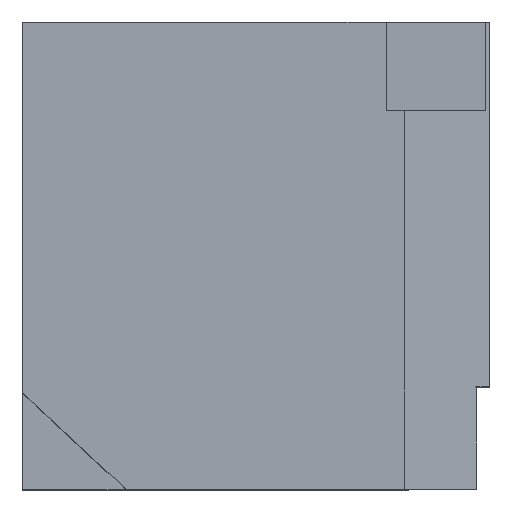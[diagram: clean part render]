
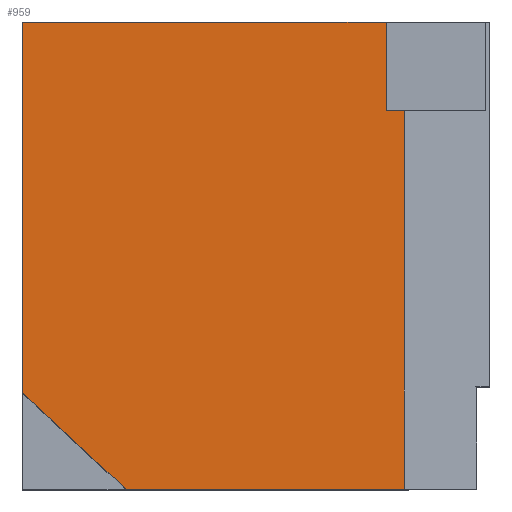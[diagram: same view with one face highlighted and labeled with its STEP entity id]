
A CAD part, top view. The second image highlights one B-rep face of the part: STEP entity #959.
In plain terms, the highlighted planar face has unit normal (0, 0, 1).
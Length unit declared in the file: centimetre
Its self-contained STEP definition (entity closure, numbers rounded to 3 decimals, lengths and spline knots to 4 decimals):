
#7 = DIRECTION ( 'NONE',  ( 0., 0., 1. ) ) ;
#39 = CARTESIAN_POINT ( 'NONE',  ( 0., 1000., 1000. ) ) ;
#50 = EDGE_CURVE ( 'NONE', #1014, #772, #886, .T. ) ;
#71 = ORIENTED_EDGE ( 'NONE', *, *, #313, .F. ) ;
#81 = LINE ( 'NONE', #937, #743 ) ;
#100 = DIRECTION ( 'NONE',  ( 0., 1., 0. ) ) ;
#104 = CARTESIAN_POINT ( 'NONE',  ( 222.0082, 0., 1000. ) ) ;
#122 = CARTESIAN_POINT ( 'NONE',  ( 778.4137, 810.6139, 1000. ) ) ;
#131 = DIRECTION ( 'NONE',  ( -1., 0., 0. ) ) ;
#133 = LINE ( 'NONE', #122, #674 ) ;
#167 = ORIENTED_EDGE ( 'NONE', *, *, #672, .F. ) ;
#176 = DIRECTION ( 'NONE',  ( 1., 0., 0. ) ) ;
#182 = CARTESIAN_POINT ( 'NONE',  ( 817.645, 0., 1000. ) ) ;
#226 = VERTEX_POINT ( 'NONE', #231 ) ;
#231 = CARTESIAN_POINT ( 'NONE',  ( 778.4137, 810.6139, 1000. ) ) ;
#235 = DIRECTION ( 'NONE',  ( 1., 0., 0. ) ) ;
#256 = EDGE_CURVE ( 'NONE', #1103, #335, #490, .T. ) ;
#285 = CARTESIAN_POINT ( 'NONE',  ( 817.645, 1000., 1000. ) ) ;
#289 = VECTOR ( 'NONE', #816, 100. ) ;
#295 = DIRECTION ( 'NONE',  ( 0., -1., 0. ) ) ;
#313 = EDGE_CURVE ( 'NONE', #226, #772, #133, .T. ) ;
#334 = ORIENTED_EDGE ( 'NONE', *, *, #1086, .T. ) ;
#335 = VERTEX_POINT ( 'NONE', #842 ) ;
#336 = DIRECTION ( 'NONE',  ( 1., 0., 0. ) ) ;
#355 = CARTESIAN_POINT ( 'NONE',  ( 0., 206.5835, 1000. ) ) ;
#363 = VECTOR ( 'NONE', #131, 100. ) ;
#385 = CARTESIAN_POINT ( 'NONE',  ( 0., 1000., 1000. ) ) ;
#386 = EDGE_CURVE ( 'NONE', #1103, #226, #835, .T. ) ;
#391 = VECTOR ( 'NONE', #100, 100. ) ;
#417 = VECTOR ( 'NONE', #653, 100. ) ;
#422 = VERTEX_POINT ( 'NONE', #1095 ) ;
#434 = ORIENTED_EDGE ( 'NONE', *, *, #475, .T. ) ;
#475 = EDGE_CURVE ( 'NONE', #695, #1014, #81, .T. ) ;
#480 = EDGE_LOOP ( 'NONE', ( #167, #434, #574, #71, #1009, #687, #334 ) ) ;
#490 = LINE ( 'NONE', #385, #363 ) ;
#574 = ORIENTED_EDGE ( 'NONE', *, *, #50, .T. ) ;
#613 = PLANE ( 'NONE',  #670 ) ;
#647 = CARTESIAN_POINT ( 'NONE',  ( 778.4137, 1000., 1000. ) ) ;
#653 = DIRECTION ( 'NONE',  ( 0., -1., 0. ) ) ;
#670 = AXIS2_PLACEMENT_3D ( 'NONE', #1039, #7, #176 ) ;
#672 = EDGE_CURVE ( 'NONE', #695, #422, #994, .T. ) ;
#674 = VECTOR ( 'NONE', #235, 100. ) ;
#687 = ORIENTED_EDGE ( 'NONE', *, *, #256, .T. ) ;
#695 = VERTEX_POINT ( 'NONE', #104 ) ;
#743 = VECTOR ( 'NONE', #336, 100. ) ;
#766 = VECTOR ( 'NONE', #295, 100. ) ;
#772 = VERTEX_POINT ( 'NONE', #898 ) ;
#816 = DIRECTION ( 'NONE',  ( -0.732, 0.681, 0. ) ) ;
#835 = LINE ( 'NONE', #1091, #417 ) ;
#842 = CARTESIAN_POINT ( 'NONE',  ( 0., 1000., 1000. ) ) ;
#886 = LINE ( 'NONE', #285, #391 ) ;
#898 = CARTESIAN_POINT ( 'NONE',  ( 817.645, 810.6139, 1000. ) ) ;
#937 = CARTESIAN_POINT ( 'NONE',  ( 0., 0., 1000. ) ) ;
#957 = FACE_OUTER_BOUND ( 'NONE', #480, .T. ) ;
#959 = ADVANCED_FACE ( 'NONE', ( #957 ), #613, .T. ) ;
#986 = LINE ( 'NONE', #39, #766 ) ;
#994 = LINE ( 'NONE', #355, #289 ) ;
#1009 = ORIENTED_EDGE ( 'NONE', *, *, #386, .F. ) ;
#1014 = VERTEX_POINT ( 'NONE', #182 ) ;
#1039 = CARTESIAN_POINT ( 'NONE',  ( 0., 0., 1000. ) ) ;
#1086 = EDGE_CURVE ( 'NONE', #335, #422, #986, .T. ) ;
#1091 = CARTESIAN_POINT ( 'NONE',  ( 778.4137, 810.6139, 1000. ) ) ;
#1095 = CARTESIAN_POINT ( 'NONE',  ( 0., 206.5835, 1000. ) ) ;
#1103 = VERTEX_POINT ( 'NONE', #647 ) ;
